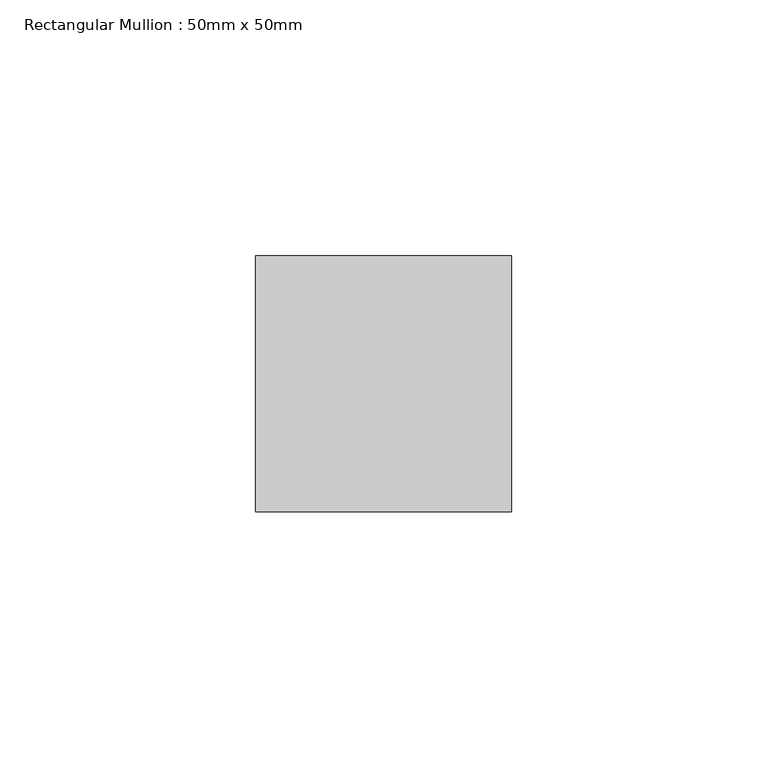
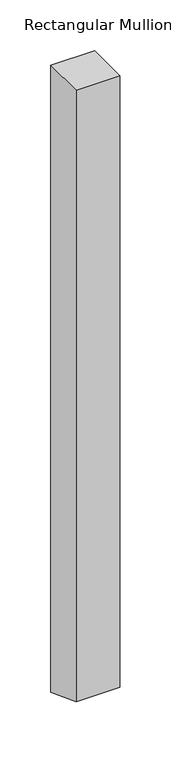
"""IFC4 building model written with IfcOpenShell, lengths in millimetres: member geometry, Rectangular Mullion : 50mm x 50mm."""

import ifcopenshell
import ifcopenshell.guid

model = None  # the IFC model being written
_history = None  # IfcOwnerHistory: only IFC2X3 demands one
_inside = {}  # id of a spatial element -> (the spatial element, [elements in it])
_under = {}  # id of a project, library or spatial element -> (it, [spatial elements below it])
_declared = {}  # id of a project -> (the project, [libraries it declares])
_typed = {}  # id of a type object -> (the type object, [elements of that type])
_made_of = {}  # id of a material, layer set ... -> (it, [elements and type objects made of it])


def new_model(schema):
    """Start an empty IFC model of exactly this schema.

    Asked for "IFC4X3", IfcOpenShell would pick the latest addendum, in which some entities
    have other attributes; the version numbers below select the first issue.
    IFC2X3 requires an IfcOwnerHistory on every rooted entity: one is made here for all.
    """
    global model, _history
    if schema == "IFC4X3":
        model = ifcopenshell.file(schema_version=(4, 3, 0, 0))
    else:
        model = ifcopenshell.file(schema=schema)
    _inside.clear()
    _under.clear()
    _declared.clear()
    _typed.clear()
    _made_of.clear()
    _history = None
    if model.schema == "IFC2X3":
        org = make("IfcOrganization", Name="unknown")
        user = make(
            "IfcPersonAndOrganization",
            ThePerson=make("IfcPerson", FamilyName="unknown"),
            TheOrganization=org,
        )
        app = make(
            "IfcApplication",
            ApplicationDeveloper=org,
            Version="unknown",
            ApplicationFullName="unknown",
            ApplicationIdentifier="unknown",
        )
        _history = make(
            "IfcOwnerHistory",
            OwningUser=user,
            OwningApplication=app,
            ChangeAction="ADDED",
            CreationDate=0,
        )
    return model


def make(cls, **values):
    """One entity of the class cls with the attributes given. An attribute that is None is left unset."""
    return model.create_entity(
        cls, **{name: value for name, value in values.items() if value is not None}
    )


def rooted(cls, **values):
    """An entity with a GlobalId (a new one), such as an element, a storey or a relation."""
    return make(cls, GlobalId=ifcopenshell.guid.new(), OwnerHistory=_history, **values)


def si_unit(unit_type, name, prefix=None):
    """IfcSIUnit, for example si_unit("LENGTHUNIT", "METRE", prefix="MILLI")."""
    return make("IfcSIUnit", UnitType=unit_type, Prefix=prefix, Name=name)


def assignment(units):
    """IfcUnitAssignment: the units of a project."""
    return None if units is None else make("IfcUnitAssignment", Units=units)


def point(xyz):
    """IfcCartesianPoint."""
    return None if xyz is None else make("IfcCartesianPoint", Coordinates=xyz)


def direction(xyz):
    """IfcDirection."""
    return None if xyz is None else make("IfcDirection", DirectionRatios=xyz)


def frame(location, z_axis=None, x_axis=None):
    """IfcAxis2Placement3D, a coordinate frame: its origin and axes. An axis left out is left unset."""
    return make(
        "IfcAxis2Placement3D",
        Location=point(location),
        Axis=direction(z_axis),
        RefDirection=direction(x_axis),
    )


def origin():
    """The frame at (0, 0, 0) with its axes left unset."""
    return frame((0.0, 0.0, 0.0))


def place(relative_to, where):
    """IfcLocalPlacement: puts the frame where relative to a parent placement (None: the world)."""
    return make(
        "IfcLocalPlacement", PlacementRelTo=relative_to, RelativePlacement=where
    )


def context(
    kind, dimensions, precision=None, world=None, true_north=None, identifier=None
):
    """IfcGeometricRepresentationContext, for example the 3D "Model" context."""
    return make(
        "IfcGeometricRepresentationContext",
        ContextIdentifier=identifier,
        ContextType=kind,
        CoordinateSpaceDimension=dimensions,
        Precision=precision,
        WorldCoordinateSystem=world,
        TrueNorth=true_north,
    )


def project(units=None, contexts=None):
    """IfcProject with its units and contexts."""
    return rooted(
        "IfcProject",
        Name="project",
        RepresentationContexts=contexts,
        UnitsInContext=assignment(units),
    )


def spatial(cls, under=None, at=None, **own):
    """A site, building, storey or space (cls), placed at a placement, below another one or the project."""
    s = rooted(cls, ObjectPlacement=at, **own)
    if under is not None:
        _under.setdefault(under.id(), (under, []))[1].append(s)
    return s


def polyline(points):
    """IfcPolyline through the points."""
    return make("IfcPolyline", Points=[point(p) for p in points])


def outline(outer, holes=None, kind="AREA"):
    """IfcArbitraryClosedProfileDef: a profile drawn as a closed curve; with holes, ...WithVoids."""
    if holes is None:
        return make("IfcArbitraryClosedProfileDef", ProfileType=kind, OuterCurve=outer)
    return make(
        "IfcArbitraryProfileDefWithVoids",
        ProfileType=kind,
        OuterCurve=outer,
        InnerCurves=holes,
    )


def extrude(swept, where, along, depth):
    """IfcExtrudedAreaSolid: the profile swept, set in the frame where, extruded along a direction by depth."""
    return make(
        "IfcExtrudedAreaSolid",
        SweptArea=swept,
        Position=where,
        ExtrudedDirection=direction(along),
        Depth=depth,
    )


def shape(context_of_items, identifier, shape_type, items):
    """IfcShapeRepresentation: the items that make up one representation, for example the "Body"."""
    return make(
        "IfcShapeRepresentation",
        ContextOfItems=context_of_items,
        RepresentationIdentifier=identifier,
        RepresentationType=shape_type,
        Items=items,
    )


def source(mapping_origin, context_of_items, identifier, shape_type, items):
    """IfcRepresentationMap: a shape defined once, which mapped items show again and again."""
    return make(
        "IfcRepresentationMap",
        MappingOrigin=mapping_origin,
        MappedRepresentation=shape(context_of_items, identifier, shape_type, items),
    )


def transform(
    local_origin,
    x_axis=None,
    y_axis=None,
    z_axis=None,
    scale=None,
    scale2=None,
    scale3=None,
    uniform=True,
):
    """IfcCartesianTransformationOperator3D, or its non-uniform kind. x_axis, y_axis, z_axis: its Axis1, 2, 3."""
    if uniform:
        return make(
            "IfcCartesianTransformationOperator3D",
            Axis1=direction(x_axis),
            Axis2=direction(y_axis),
            LocalOrigin=point(local_origin),
            Scale=scale,
            Axis3=direction(z_axis),
        )
    return make(
        "IfcCartesianTransformationOperator3DnonUniform",
        Axis1=direction(x_axis),
        Axis2=direction(y_axis),
        LocalOrigin=point(local_origin),
        Scale=scale,
        Axis3=direction(z_axis),
        Scale2=scale2,
        Scale3=scale3,
    )


def mapped(mapping_source, mapping_target):
    """IfcMappedItem: shows the shape of a source again, moved by a transform."""
    return make(
        "IfcMappedItem", MappingSource=mapping_source, MappingTarget=mapping_target
    )


def made_of(thing, what):
    """Note that an element or type object is made of a material, layer set ...; save() writes the relation."""
    if what is not None:
        _made_of.setdefault(what.id(), (what, []))[1].append(thing)
    return thing


def element(
    cls,
    number,
    at=None,
    inside=None,
    cuts=None,
    type_object=None,
    material=None,
    context=None,
    identifier="Body",
    shape_type=None,
    held_by="IfcProductDefinitionShape",
    body=None,
    shapes=None,
    **own,
):
    """One element of the class cls, such as IfcWall. Its Tag is "e" and its number.

    at: its placement. inside: the storey or other place that contains it. cuts: it is an
    opening in that element (IfcRelVoidsElement). A single representation is given by context,
    identifier, shape_type and body (its items); several are given by shapes. held_by: the class
    of the entity that holds the representations. save() writes the other relations.
    """
    e = rooted(cls, Tag="e%d" % number, ObjectPlacement=at, **own)
    if body is not None:
        shapes = [shape(context, identifier, shape_type, body)]
    if shapes is not None:
        e.Representation = make(held_by, Representations=shapes)
    if inside is not None:
        _inside.setdefault(inside.id(), (inside, []))[1].append(e)
    if cuts is not None:
        rooted(
            "IfcRelVoidsElement", RelatingBuildingElement=cuts, RelatedOpeningElement=e
        )
    if type_object is not None:
        _typed.setdefault(type_object.id(), (type_object, []))[1].append(e)
    return made_of(e, material)


def aggregate(whole, parts):
    """IfcRelAggregates: a whole, such as a stair, and the parts it consists of."""
    return rooted("IfcRelAggregates", RelatingObject=whole, RelatedObjects=parts)


def save(model, path):
    """Write the relations noted so far, then the file.

    IfcRelAggregates (storeys below a building ...), IfcRelContainedInSpatialStructure (elements
    in a storey), IfcRelDefinesByType, IfcRelAssociatesMaterial and IfcRelDeclares: one each for
    every whole, place, type object, material and project.
    """
    for whole, parts in _under.values():
        aggregate(whole, parts)
    for where, things in _inside.values():
        rooted(
            "IfcRelContainedInSpatialStructure",
            RelatedElements=things,
            RelatingStructure=where,
        )
    for kind, things in _typed.values():
        rooted("IfcRelDefinesByType", RelatedObjects=things, RelatingType=kind)
    for what, things in _made_of.values():
        rooted("IfcRelAssociatesMaterial", RelatedObjects=things, RelatingMaterial=what)
    for by, libraries in _declared.values():
        rooted("IfcRelDeclares", RelatingContext=by, RelatedDefinitions=libraries)
    model.write(path)


def rectangular_mullion_50mm_x_50mm_357a1518(model_context):
    return source(origin(), model_context, "Body", "SweptSolid", [
        extrude(outline(polyline([(-25.0, 0.0), (25.0, 0.0), (25.0, -754.9902487), (-25.0, -736.3031322), (-25.0, 0.0)])), frame((-50.0, 0.0, 0.0), z_axis=(1.0, 0.0, 0.0), x_axis=(0.0, 1.0, 0.0)), (0.0, 0.0, 1.0), 50.0),
    ])


if __name__ == "__main__":
    model = new_model("IFC4")
    model_context = context("Model", 3, world=origin())
    ifc_project = project(units=[si_unit("LENGTHUNIT", "METRE", prefix="MILLI")], contexts=[model_context])
    site = spatial("IfcSite", under=ifc_project)
    building = spatial("IfcBuilding", under=site)
    placement = place(None, origin())
    rectangular_mullion_50mm_x_50mm_shape = rectangular_mullion_50mm_x_50mm_357a1518(model_context)
    element("IfcMember", 1, ObjectType="Rectangular Mullion : 50mm x 50mm", at=placement, inside=building, context=model_context, shape_type="MappedRepresentation", body=[
        mapped(rectangular_mullion_50mm_x_50mm_shape, transform((0.0, 0.0, 0.0), x_axis=(1.0, 0.0, 0.0), y_axis=(0.0, 1.0, 0.0), z_axis=(0.0, 0.0, 1.0))),
    ])
    save(model, "model.ifc")
